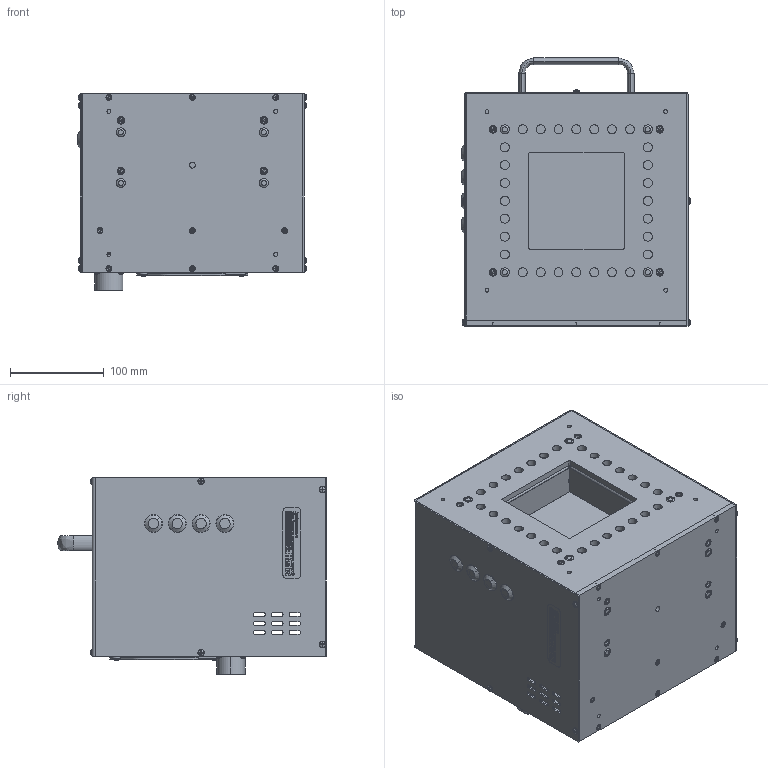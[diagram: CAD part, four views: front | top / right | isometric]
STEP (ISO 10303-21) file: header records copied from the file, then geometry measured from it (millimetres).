
FILE_DESCRIPTION (( 'STEP AP203' ), '1' );
FILE_NAME ('319-001-328_NC.STEP', '2014-09-16T16:31:29', ( '' ), ( '' ), 'SwSTEP 2.0', 'SolidWorks 2013', '' );
FILE_SCHEMA (( 'CONFIG_CONTROL_DESIGN' ));
Products named in the file (1): 319-001-328_NC
Bounding box: 244.26 x 286.06 x 209.8 mm (x, y, z)
Volume: 1636891.4 mm3; surface area: 804572.9 mm2
Topology: 71 solids, 71 shells, 3793 faces, 9634 edges, 6204 vertices
Faces by surface type: plane 2260, cylinder 799, bspline 402, cone 178, torus 116, sphere 38
Entity records: 127289 total; most frequent: CARTESIAN_POINT 35750, ORIENTED_EDGE 19192, DIRECTION 18198, EDGE_CURVE 9596, VERTEX_POINT 6204, VECTOR 6158, LINE 6158, AXIS2_PLACEMENT_3D 6020
